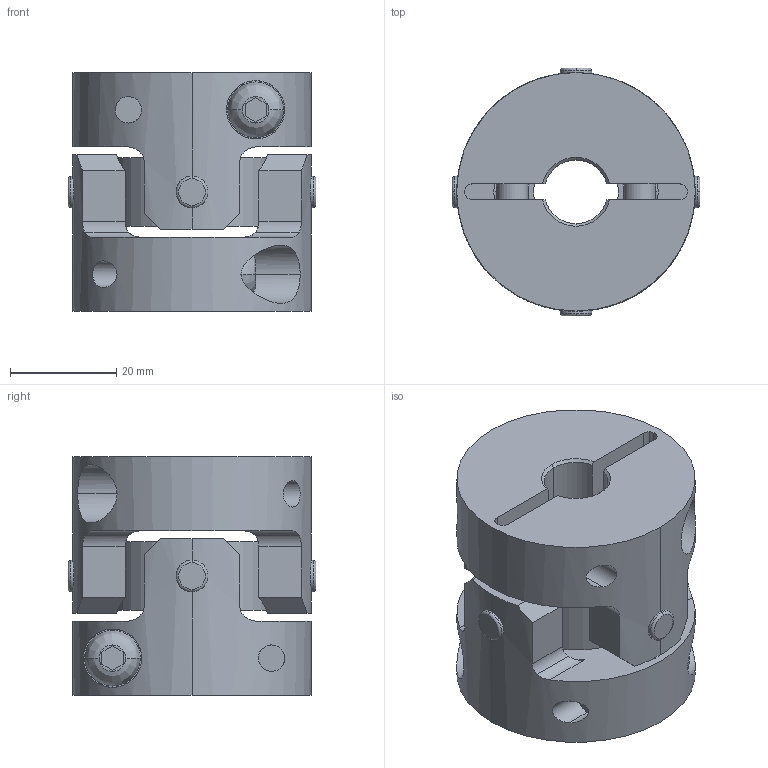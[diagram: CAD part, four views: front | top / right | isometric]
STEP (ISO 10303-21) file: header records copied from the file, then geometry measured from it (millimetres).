
FILE_DESCRIPTION((''),'2;1');
FILE_NAME('UA-45C-12×17.stp','2013-05-22T09:53:11',(''),(''),'AutoCAD STEP 2000i','AutoCAD 2000i',', , ');
FILE_SCHEMA(('CONFIG_CONTROL_DESIGN'));
Length unit declared in the file: millimetre
Products named in the file (7): UA-45C-8×17; 忣兜1; UA-4502-D17; BTN-M6; UA-4502-D08-1; UA-4502-D08; UA45-SEN
Assembly tree (8 placements, depth 3):
  UA-45C-8×17
    忣兜1
    UA-4502-D17
      BTN-M6
    UA-4502-D08-1
      BTN-M6
    UA-4502-D08
      BTN-M6
    UA45-SEN
Bounding box: 46.73 x 46.73 x 45 mm (x, y, z)
Volume: 49434.3 mm3; surface area: 19836.6 mm2
Topology: 1 solids, 1 shells, 206 faces, 554 edges, 364 vertices
Faces by surface type: cylinder 96, plane 78, cone 16, bspline 8, torus 8
Entity records: 8537 total; most frequent: CARTESIAN_POINT 3201, ORIENTED_EDGE 1108, DIRECTION 1068, EDGE_CURVE 554, AXIS2_PLACEMENT_3D 411, VERTEX_POINT 364, VECTOR 246, LINE 246
